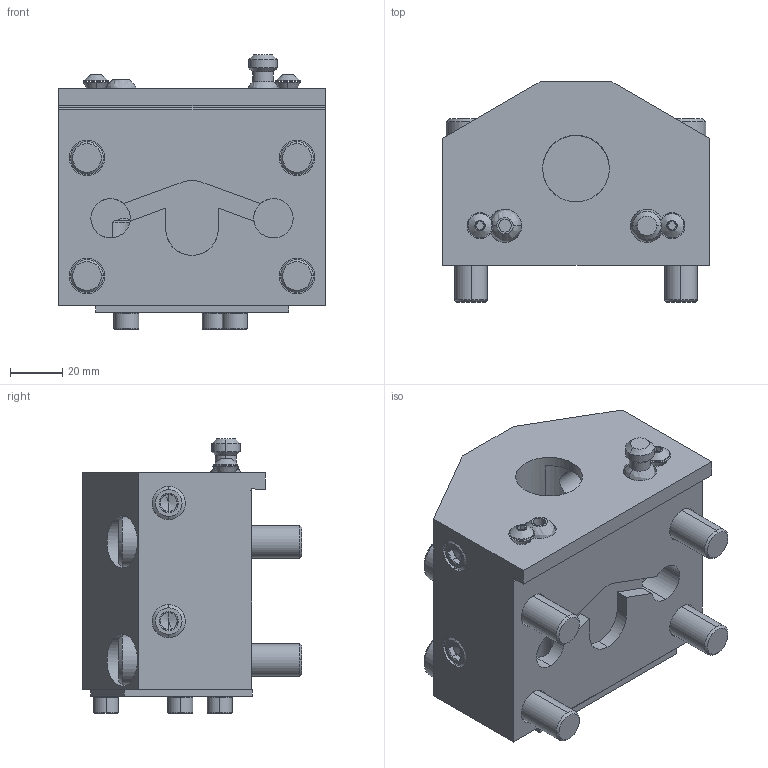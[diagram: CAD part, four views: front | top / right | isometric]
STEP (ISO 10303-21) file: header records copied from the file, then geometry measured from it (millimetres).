
FILE_DESCRIPTION (( 'STEP AP203' ), '1' );
FILE_NAME ('04-0758, BOT20ID-1.0.STEP', '2022-07-18T22:17:46', ( '' ), ( '' ), 'SwSTEP 2.0', 'SolidWorks 2021', '' );
FILE_SCHEMA (( 'CONFIG_CONTROL_DESIGN' ));
Length unit declared in the file: inch
Products named in the file (1): 04-0758, BOT20ID-1.0
Bounding box: 101.6 x 83.82 x 104.43 mm (x, y, z)
Surface area: 82411.7 mm2 (no closed solid volume)
Topology: 0 solids, 29 shells, 373 faces, 1007 edges, 661 vertices
Faces by surface type: plane 185, cylinder 93, cone 67, bspline 28
Entity records: 20041 total; most frequent: CARTESIAN_POINT 11088, ORIENTED_EDGE 1789, DIRECTION 1710, EDGE_CURVE 991, VERTEX_POINT 661, AXIS2_PLACEMENT_3D 612, VECTOR 486, LINE 486
